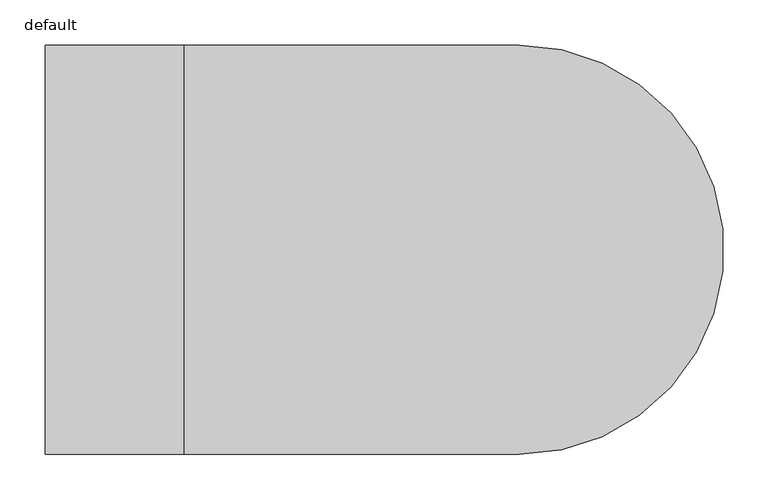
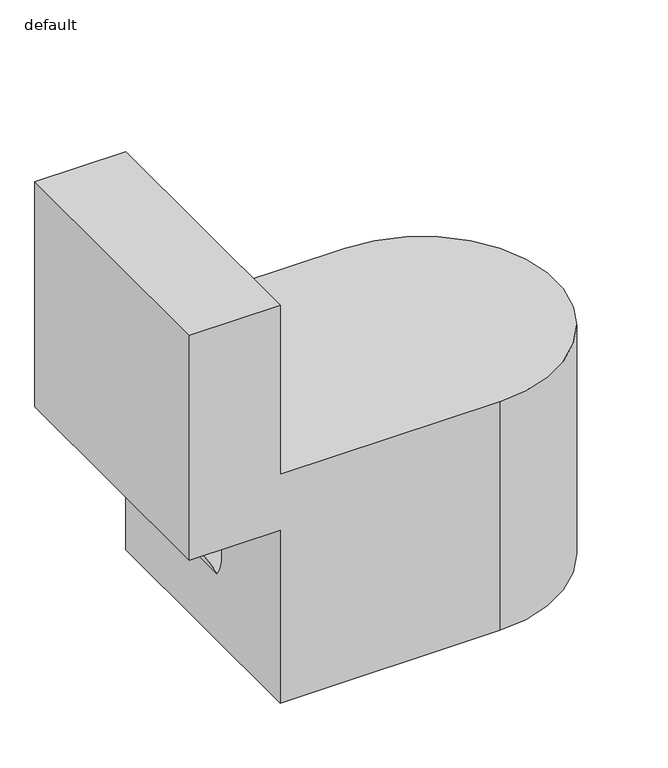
"""IFC4 building model written with IfcOpenShell, lengths in millimetres: flow terminal geometry, SP_унитаз : default."""

from ifc_helpers import new_model, si_unit, point, frame, frame_2d, origin, origin_2d, place, context, project, spatial, circle_curve, trimmed, segment, composite_curve, outline, extrude, source, transform, mapped, element, save
from ifc_brep_helpers import plane_surface, cylinder_surface, advanced_brep


def default_cdd5ccfe(model_context):
    return source(origin(), model_context, "Body", "SolidModel", [
        extrude(outline(composite_curve([segment(trimmed(circle_curve(frame_2d((76.2, -139.7)), 8.0), [point((84.2, -139.7))], [point((68.2, -139.7))], False, "CARTESIAN"), True, "CONTINUOUS"), segment(trimmed(circle_curve(frame_2d((76.2, -139.7)), 8.0), [point((68.2, -139.7))], [point((84.2, -139.7))], False, "CARTESIAN"), True, "CONTINUOUS")], self_intersect=False)), frame((0.0, 0.0, 297.23125), z_axis=(0.0, 0.0, 1.0), x_axis=(1.0, 0.0, 0.0)), (0.0, 0.0, 1.0), 10.0),
        extrude(outline(composite_curve([segment(trimmed(circle_curve(origin_2d(), 55.0), [point((0.0, -55.0))], [point((0.0, 55.0))], False, "CARTESIAN"), True, "CONTINUOUS"), segment(trimmed(circle_curve(origin_2d(), 55.0), [point((0.0, 55.0))], [point((0.0, -55.0))], False, "CARTESIAN"), True, "CONTINUOUS")], self_intersect=False)), frame((133.9384758, 0.0, 150.0), z_axis=(0.8660254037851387, 0.0, 0.4999999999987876), x_axis=(0.0, -1.0, 0.0)), (0.0, 0.0, 1.0), 60.0),
        advanced_brep(
        [(152.4, -225.0, 307.23125), (0.0, -225.0, 307.23125), (0.0, 225.0, 307.23125), (152.4, 225.0, 307.23125), (152.4, 225.0, 707.23125), (0.0, 225.0, 707.23125), (0.0, -225.0, 707.23125), (152.4, -225.0, 707.23125), (152.4, -225.0, 406.4), (152.4, 225.0, 406.4), (152.4, -225.0, 0.0), (521.4, -225.0, 0.0), (521.4, -225.0, 406.4), (521.4, 225.0, 406.4), (521.4, 225.0, 0.0), (152.4, 225.0, 0.0)],
        [
            (0, 1),
            (1, 2),
            (2, 3),
            (3, 0),
            (4, 5),
            (5, 6),
            (6, 7),
            (7, 4),
            (7, 8),
            (8, 9),
            (9, 4),
            (0, 10),
            (10, 11),
            (11, 12),
            (12, 8),
            (6, 1),
            (5, 2),
            (9, 13),
            (13, 14),
            (14, 15),
            (15, 3),
            (14, 11, circle_curve(frame((521.4, 0.0, 0.0), z_axis=(0.0, 0.0, -1.0), x_axis=(0.0, -1.0, 0.0)), 225.0)),
            (10, 15),
            (12, 13, circle_curve(frame((521.4, 0.0, 406.4), z_axis=(0.0, 0.0, 1.0), x_axis=(0.0, -1.0, 0.0)), 225.0)),
        ],
        [
            plane_surface(frame((152.4, 204.2654018, 307.23125), z_axis=(0.0, 0.0, -1.0), x_axis=(0.0, -1.0, 0.0))),
            plane_surface(frame((152.4, 204.2654018, 707.23125), z_axis=(0.0, 0.0, 1.0), x_axis=(0.0, 1.0, 0.0))),
            plane_surface(frame((152.4, 225.0, 307.23125), z_axis=(1.0, 0.0, 0.0), x_axis=(0.0, 0.0, 1.0))),
            plane_surface(frame((152.4, -225.0, 307.23125), z_axis=(0.0, -1.0, 0.0), x_axis=(0.0, 0.0, 1.0))),
            plane_surface(frame((0.0, -225.0, 307.23125), z_axis=(-1.0, 0.0, 0.0), x_axis=(0.0, 0.0, 1.0))),
            plane_surface(frame((0.0, 225.0, 307.23125), z_axis=(0.0, 1.0, 0.0), x_axis=(0.0, 0.0, 1.0))),
            plane_surface(frame((521.4, -225.0, 0.0), z_axis=(0.0, 0.0, -1.0), x_axis=(-1.0, 0.0, 0.0))),
            plane_surface(frame((521.4, -225.0, 406.4), z_axis=(0.0, 0.0, 1.0), x_axis=(1.0, 0.0, 0.0))),
            cylinder_surface(frame((521.4, 0.0, 406.4), z_axis=(0.0, 0.0, -1.0), x_axis=(0.0, -1.0, 0.0)), 225.0),
            plane_surface(frame((152.4, -225.0, 0.0), z_axis=(-1.0, 0.0, 0.0), x_axis=(0.0, 0.0, 1.0))),
        ],
        [
            (0, [[1, 2, 3, 4]]),
            (1, [[5, 6, 7, 8]]),
            (2, [[-8, 9, 10, 11]]),
            (3, [[-1, 12, 13, 14, 15, -9, -7, 16]]),
            (4, [[-2, -16, -6, 17]]),
            (5, [[-3, -17, -5, -11, 18, 19, 20, 21]]),
            (6, [[22, -13, 23, -20]]),
            (7, [[-18, -10, -15, 24]]),
            (8, [[-22, -19, -24, -14]]),
            (9, [[-23, -12, -4, -21]]),
        ],
    ),
    ])


if __name__ == "__main__":
    model = new_model("IFC4")
    model_context = context("Model", 3, world=origin())
    ifc_project = project(units=[si_unit("LENGTHUNIT", "METRE", prefix="MILLI")], contexts=[model_context])
    site = spatial("IfcSite", under=ifc_project)
    building = spatial("IfcBuilding", under=site)
    placement = place(None, origin())
    default_shape = default_cdd5ccfe(model_context)
    element("IfcFlowTerminal", 1, ObjectType="SP_унитаз : default", at=placement, inside=building, context=model_context, shape_type="MappedRepresentation", body=[
        mapped(default_shape, transform((0.0, 0.0, 0.0), x_axis=(1.0, 0.0, 0.0), y_axis=(0.0, 1.0, 0.0), z_axis=(0.0, 0.0, 1.0))),
    ])
    save(model, "model.ifc")
